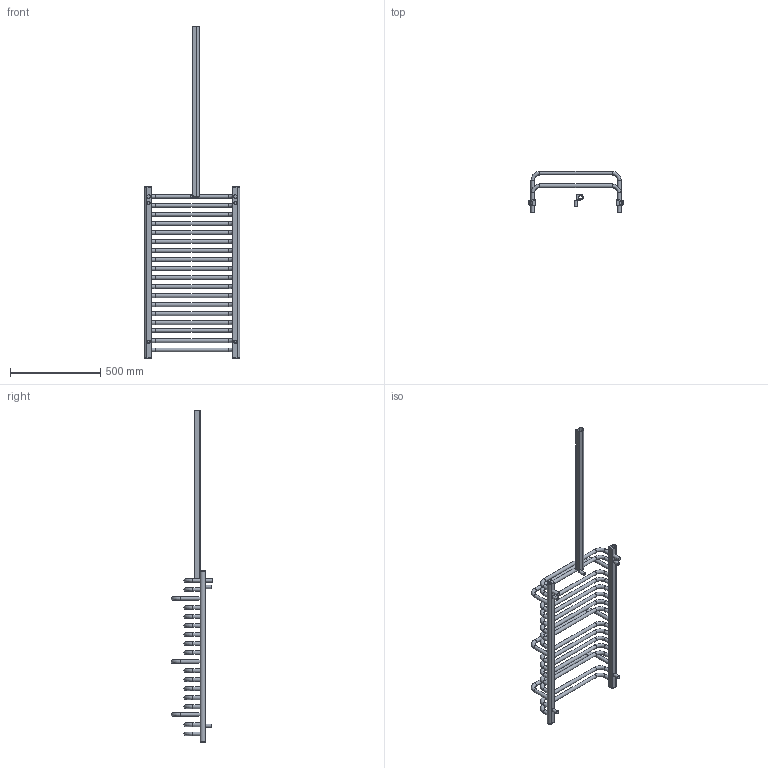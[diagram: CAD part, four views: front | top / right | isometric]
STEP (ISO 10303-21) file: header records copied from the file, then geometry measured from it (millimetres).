
FILE_DESCRIPTION( ( 'Unknown' ), '1' );
FILE_NAME( 'D:/RYSUNKI/RYSUNKI SOLID/SEJWAL/NOWE/2021/MAJORKA/MAJORKA.stp', 'Unknown', ( 'Unknown' ), ( 'Unknown' ), 'XStep 1.0', 'Unknown', ' ' );
FILE_SCHEMA( ( 'automotive_design' ) );
Length unit declared in the file: millimetre
Products named in the file (6): Assem1; Rurka_20x1_2x500_zew; MAJ-Profil_glowny; Rurka_150_zew; MOCOWANIE; Dekiel_G1_2
Bounding box: 530 x 231 x 1841.4 mm (x, y, z)
Volume: 4512260 mm3; surface area: 1529743.4 mm2
Topology: 33 solids, 33 shells, 245 faces, 447 edges, 273 vertices
Faces by surface type: plane 104, cylinder 91, torus 50
Full cylindrical faces by diameter (mm): 15 x5, 18 x5, 18.631 x5, 20 x65
Entity records: 1237 total; most frequent: DIRECTION 222, CARTESIAN_POINT 172, ORIENTED_EDGE 116, AXIS2_PLACEMENT_3D 96, EDGE_LOOP 62, EDGE_CURVE 58, FACE_OUTER_BOUND 55, VERTEX_POINT 46
